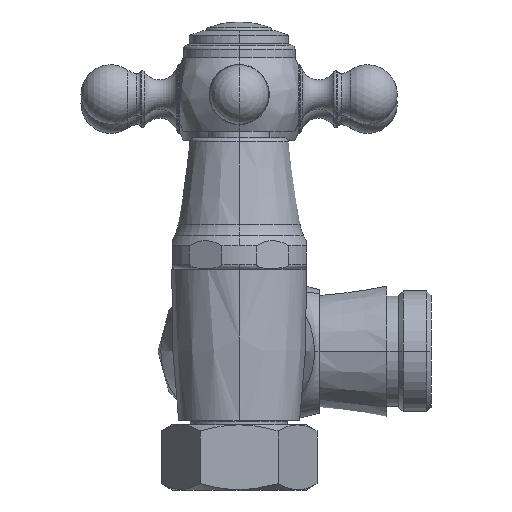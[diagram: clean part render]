
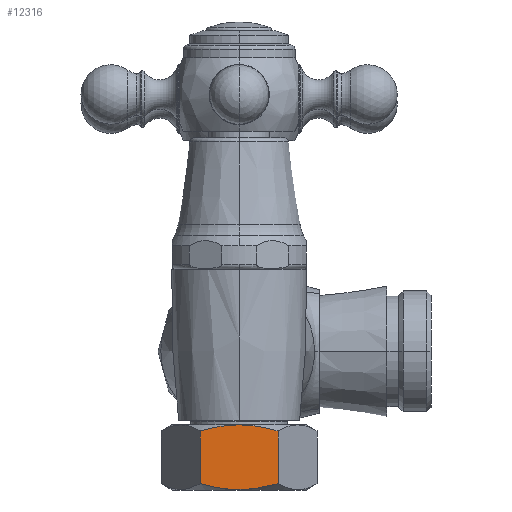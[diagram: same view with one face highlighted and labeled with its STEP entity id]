
A CAD part, left-side view. The second image highlights one B-rep face of the part: STEP entity #12316.
In plain terms, the highlighted planar face has unit normal (-1, 0, 0).
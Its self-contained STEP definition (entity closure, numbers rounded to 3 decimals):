
#11934=CARTESIAN_POINT('',(-89.5,0.,
-15.8));
#11935=CARTESIAN_POINT('',(-89.5,0.547,
-15.8));
#11936=CARTESIAN_POINT('',(-89.5,1.642,
-15.836));
#11937=CARTESIAN_POINT('',(-89.5,3.284,-15.995));
#11938=CARTESIAN_POINT('',(-89.5,4.934,-16.256));
#11939=CARTESIAN_POINT('',(-89.5,6.606,-16.613));
#11940=CARTESIAN_POINT('',(-89.5,7.776,-16.923));
#11941=CARTESIAN_POINT('',(-89.5,8.372,-17.095));
#11964=CARTESIAN_POINT('',(-89.5,-8.372,-17.095));
#11966=CARTESIAN_POINT('',(-89.5,-8.372,-17.095));
#11967=CARTESIAN_POINT('',(-89.5,-7.776,-16.923));
#11968=CARTESIAN_POINT('',(-89.5,-6.606,-16.613));
#11969=CARTESIAN_POINT('',(-89.5,-4.933,-16.256));
#11970=CARTESIAN_POINT('',(-89.5,-3.283,-15.995));
#11971=CARTESIAN_POINT('',(-89.5,-1.642,
-15.836));
#11972=CARTESIAN_POINT('',(-89.5,-0.547,
-15.8));
#11973=CARTESIAN_POINT('',(-89.5,0.,
-15.8));
#12049=DIRECTION('',(0.,0.,-1.));
#12050=VECTOR('',#12049,11.352);
#12051=CARTESIAN_POINT('',(-89.5,-8.372,-17.095));
#12052=LINE('',#12051,#12050);
#12092=DIRECTION('',(0.,0.,-1.));
#12093=VECTOR('',#12092,11.352);
#12094=CARTESIAN_POINT('',(-89.5,8.372,-17.095));
#12095=LINE('',#12094,#12093);
#12107=CARTESIAN_POINT('',(-89.5,-8.372,-28.447));
#12122=CARTESIAN_POINT('',(-89.5,-8.372,-28.447));
#12123=CARTESIAN_POINT('',(-89.5,-7.776,-28.619));
#12124=CARTESIAN_POINT('',(-89.5,-6.606,-28.929));
#12125=CARTESIAN_POINT('',(-89.5,-4.933,-29.287));
#12126=CARTESIAN_POINT('',(-89.5,-3.282,-29.547));
#12127=CARTESIAN_POINT('',(-89.5,-1.641,-29.706));
#12128=CARTESIAN_POINT('',(-89.5,0.001,-29.76));
#12129=CARTESIAN_POINT('',(-89.5,1.643,-29.706));
#12130=CARTESIAN_POINT('',(-89.5,3.284,-29.547));
#12131=CARTESIAN_POINT('',(-89.5,4.934,-29.286));
#12132=CARTESIAN_POINT('',(-89.5,6.606,-28.929));
#12133=CARTESIAN_POINT('',(-89.5,7.776,-28.619));
#12134=CARTESIAN_POINT('',(-89.5,8.372,-28.447));
#12200=VERTEX_POINT('',#11964);
#12201=VERTEX_POINT('',#11973);
#12202=VERTEX_POINT('',#11941);
#12206=VERTEX_POINT('',#12107);
#12207=VERTEX_POINT('',#12134);
#12301=CARTESIAN_POINT('',(-89.5,-8.372,-15.8));
#12302=DIRECTION('',(1.,0.,0.));
#12303=DIRECTION('',(0.,1.,0.));
#12304=AXIS2_PLACEMENT_3D('',#12301,#12302,#12303);
#12305=PLANE('',#12304);
#12306=ORIENTED_EDGE('',*,*,#12256,.F.);
#12308=ORIENTED_EDGE('',*,*,#12307,.T.);
#12310=ORIENTED_EDGE('',*,*,#12309,.T.);
#12312=ORIENTED_EDGE('',*,*,#12311,.F.);
#12313=ORIENTED_EDGE('',*,*,#12241,.F.);
#12314=EDGE_LOOP('',(#12306,#12308,#12310,#12312,#12313));
#12315=FACE_OUTER_BOUND('',#12314,.F.);
#12316=ADVANCED_FACE('',(#12315),#12305,.F.);
#11942=B_SPLINE_CURVE_WITH_KNOTS('',3,(#11934,#11935,#11936,#11937,#11938,
#11939,#11940,#11941),.UNSPECIFIED.,.F.,.F.,(4,1,1,1,1,4),(0.,0.2,0.4,
0.6,0.8,1.),.UNSPECIFIED.);
#11974=B_SPLINE_CURVE_WITH_KNOTS('',3,(#11966,#11967,#11968,#11969,#11970,
#11971,#11972,#11973),.UNSPECIFIED.,.F.,.F.,(4,1,1,1,1,4),(0.,0.2,0.4,
0.6,0.8,1.),.UNSPECIFIED.);
#12135=B_SPLINE_CURVE_WITH_KNOTS('',3,(#12122,#12123,#12124,#12125,#12126,
#12127,#12128,#12129,#12130,#12131,#12132,#12133,#12134),.UNSPECIFIED.,.F.,.F.,(
4,1,1,1,1,1,1,1,1,1,4),(0.,0.1,0.2,0.3,0.4,0.5,0.6,0.7,0.8,
0.9,1.),.UNSPECIFIED.);
#12241=EDGE_CURVE('',#12201,#12202,#11942,.T.);
#12256=EDGE_CURVE('',#12200,#12201,#11974,.T.);
#12307=EDGE_CURVE('',#12200,#12206,#12052,.T.);
#12309=EDGE_CURVE('',#12206,#12207,#12135,.T.);
#12311=EDGE_CURVE('',#12202,#12207,#12095,.T.);
